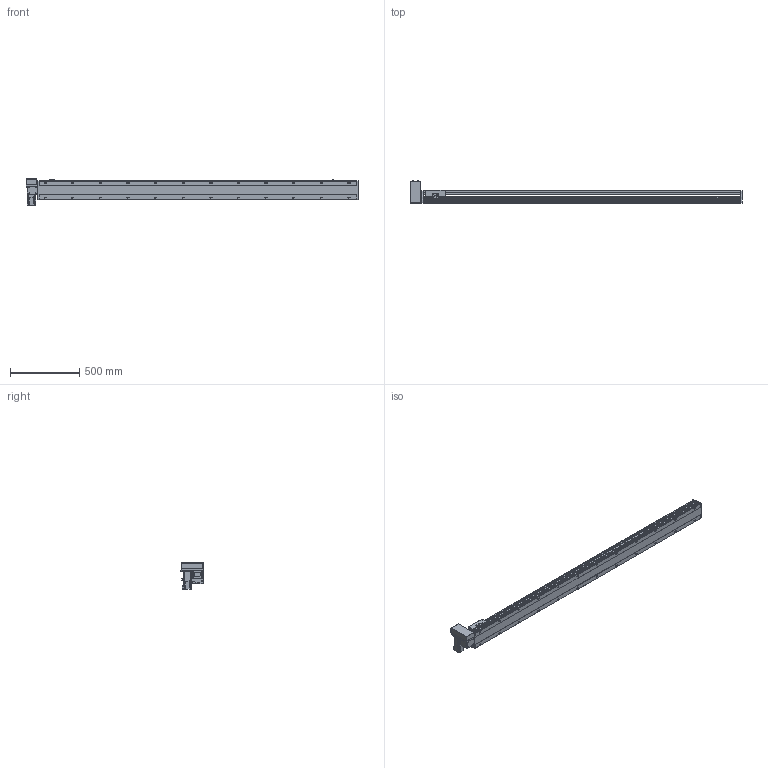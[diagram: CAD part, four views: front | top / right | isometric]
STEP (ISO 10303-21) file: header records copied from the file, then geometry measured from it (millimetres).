
FILE_DESCRIPTION(/* description */ ('STEP AP214'),/* implementation_level */ '2;1');
FILE_NAME(/* name */ 'PBS140S-P40-S2050-RU-T40-C1-N(0)',/* time_stamp */ '2022-06-09T02:56:18+02:00',/* author */ ('License CC BY-ND 4.0'),/* organization */ ('CADENAS'),/* preprocessor_version */ 'ST-DEVELOPER v18.102',/* originating_system */ 'PARTsolutions',/* authorisation */ ' ');
FILE_SCHEMA (('AUTOMOTIVE_DESIGN {1 0 10303 214 3 1 1}'));
Length unit declared in the file: millimetre
Products named in the file (7): PBS140S-P40-S2050-RU-T40-C1-N(0); PBS140S_sensor; PBS140S_plant; PBS140S_sliser; T40-p1; PBS140ST-RU_motors; PBS140S-S2050()_body
Assembly tree (8 placements, depth 2):
  PBS140S-P40-S2050-RU-T40-C1-N(0)
    PBS140S_sensor  x3
    PBS140S_plant
    PBS140S_sliser
    T40-p1
    PBS140ST-RU_motors
    PBS140S-S2050()_body
Bounding box: 2404 x 162.5 x 189.7 mm (x, y, z)
Volume: 11822265.8 mm3; surface area: 2000944.8 mm2
Topology: 8 solids, 8 shells, 1163 faces, 3071 edges, 2009 vertices
Faces by surface type: plane 726, cylinder 377, cone 50, sphere 8, torus 2
Full cylindrical faces by diameter (mm): 3.242 x4, 4 x2, 4.134 x4, 4.4 x8, 4.5 x2, 4.8 x4, 4.917 x32, 5.5 x7, 6 x2, 7 x26, 7.5 x8, 8 x12, 8.5 x4, 10.5 x24, 14 x1, 30 x2, 50 x2
Entity records: 33328 total; most frequent: CARTESIAN_POINT 6264, DIRECTION 5628, ORIENTED_EDGE 5302, EDGE_CURVE 2651, AXIS2_PLACEMENT_3D 1979, VERTEX_POINT 1849, LINE 1670, VECTOR 1670
